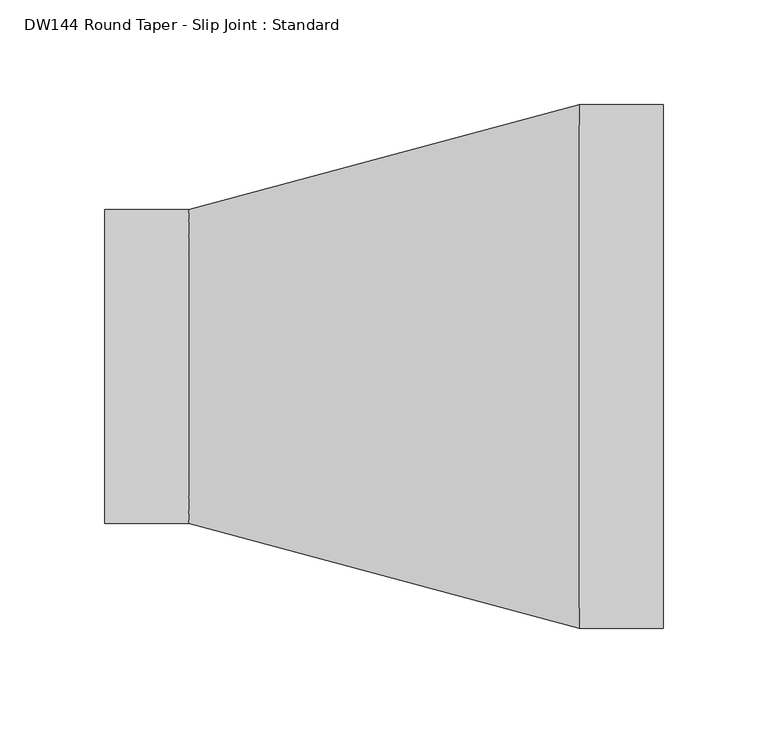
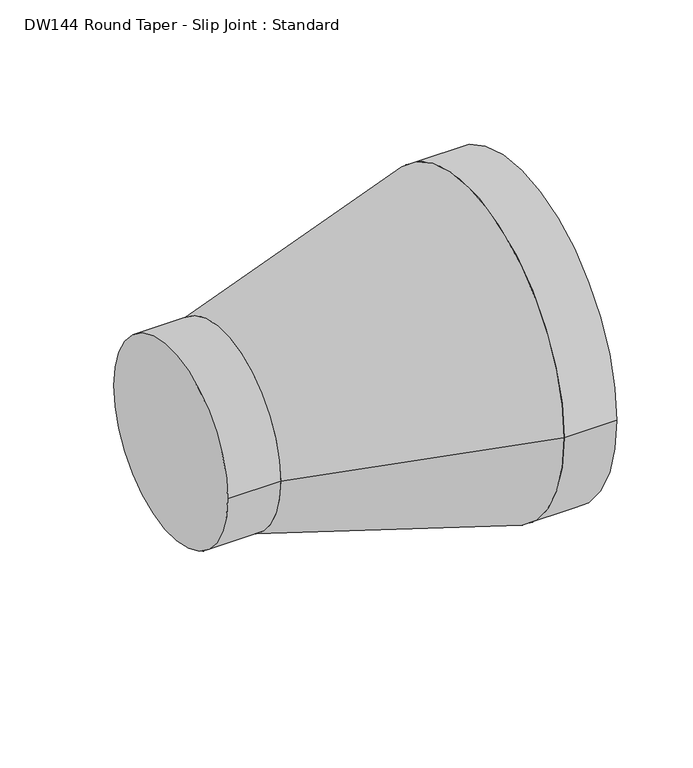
"""IFC4 building model written with IfcOpenShell, lengths in millimetres: duct fitting geometry, DW144 Round Taper - Slip Joint : Standard."""

from ifc_helpers import new_model, si_unit, point, frame, origin, origin_2d, place, context, project, spatial, polyline, circle_curve, trimmed, segment, composite_curve, outline, extrude, source, transform, mapped, element, save
from ifc_brep_helpers import plane_surface, revolved_surface, advanced_brep


def dw144_round_taper_slip_joint_standard_077f4cdd(model_context):
    return source(origin(), model_context, "Body", "SolidModel", [
        extrude(outline(composite_curve([segment(trimmed(circle_curve(origin_2d(), 125.0), [point((-125.0, 0.0))], [point((125.0, 0.0))], False, "CARTESIAN"), True, "CONTINUOUS"), segment(trimmed(circle_curve(origin_2d(), 125.0), [point((125.0, 0.0))], [point((-125.0, 0.0))], False, "CARTESIAN"), True, "CONTINUOUS")], self_intersect=False)), frame((226.6025404, 0.0, 0.0), z_axis=(1.0, 0.0, 0.0), x_axis=(0.0, 1.0, 0.0)), (0.0, 0.0, 1.0), 40.0),
        extrude(outline(composite_curve([segment(trimmed(circle_curve(origin_2d(), 75.0), [point((-75.0, 0.0))], [point((75.0, 0.0))], False, "CARTESIAN"), True, "CONTINUOUS"), segment(trimmed(circle_curve(origin_2d(), 75.0), [point((75.0, 0.0))], [point((-75.0, 0.0))], False, "CARTESIAN"), True, "CONTINUOUS")], self_intersect=False)), frame((0.0, 0.0, 0.0), z_axis=(1.0, 0.0, 0.0), x_axis=(0.0, 1.0, 0.0)), (0.0, 0.0, 1.0), 40.0),
        advanced_brep(
        [(226.6025404, -125.0, 0.0), (226.6025404, 125.0, 0.0), (40.0, -75.0, 0.0), (40.0, 75.0, 0.0)],
        [
            (0, 1, circle_curve(frame((226.6025404, 0.0, 0.0), z_axis=(1.0, 0.0, 0.0), x_axis=(0.0, -1.0, 0.0)), 125.0)),
            (1, 0, circle_curve(frame((226.6025404, 0.0, 0.0), z_axis=(1.0, 0.0, 0.0), x_axis=(0.0, 1.0, 0.0)), 125.0)),
            (2, 3, circle_curve(frame((40.0, 0.0, 0.0), z_axis=(-1.0, 0.0, 0.0), x_axis=(0.0, 1.0, 0.0)), 75.0)),
            (3, 2, circle_curve(frame((40.0, 0.0, 0.0), z_axis=(-1.0, 0.0, 0.0), x_axis=(0.0, -1.0, 0.0)), 75.0)),
            (3, 1),
            (0, 2),
        ],
        [
            plane_surface(frame((226.6025404, 0.0, 0.0), z_axis=(1.0, 0.0, 0.0), x_axis=(0.0, 0.0, -1.0))),
            plane_surface(frame((40.0, 0.0, 0.0), z_axis=(-1.0, 0.0, 0.0), x_axis=(0.0, 0.0, -1.0))),
            revolved_surface(polyline([(40.00000000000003, 75.00000000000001, 0.0), (226.60254039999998, 125.0, 0.0)]), (-239.9038106, 0.0, 0.0), (1.0, 0.0, 0.0)),
            revolved_surface(polyline([(40.00000000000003, -75.00000000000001, 0.0), (226.60254039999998, -125.0, 0.0)]), (-239.9038106, 0.0, 0.0), (1.0, 0.0, 0.0)),
        ],
        [
            (0, [[1, 2]]),
            (1, [[3, 4]]),
            (2, [[-4, 5, -1, 6]]),
            (3, [[-3, -6, -2, -5]]),
        ],
    ),
    ])


if __name__ == "__main__":
    model = new_model("IFC4")
    model_context = context("Model", 3, world=origin())
    ifc_project = project(units=[si_unit("LENGTHUNIT", "METRE", prefix="MILLI")], contexts=[model_context])
    site = spatial("IfcSite", under=ifc_project)
    building = spatial("IfcBuilding", under=site)
    placement = place(None, origin())
    dw144_round_taper_slip_joint_standard_shape = dw144_round_taper_slip_joint_standard_077f4cdd(model_context)
    element("IfcDuctFitting", 1, ObjectType="DW144 Round Taper - Slip Joint : Standard", at=placement, inside=building, context=model_context, shape_type="MappedRepresentation", body=[
        mapped(dw144_round_taper_slip_joint_standard_shape, transform((0.0, 0.0, 0.0), x_axis=(1.0, 0.0, 0.0), y_axis=(0.0, 1.0, 0.0), z_axis=(0.0, 0.0, 1.0))),
    ])
    save(model, "model.ifc")
